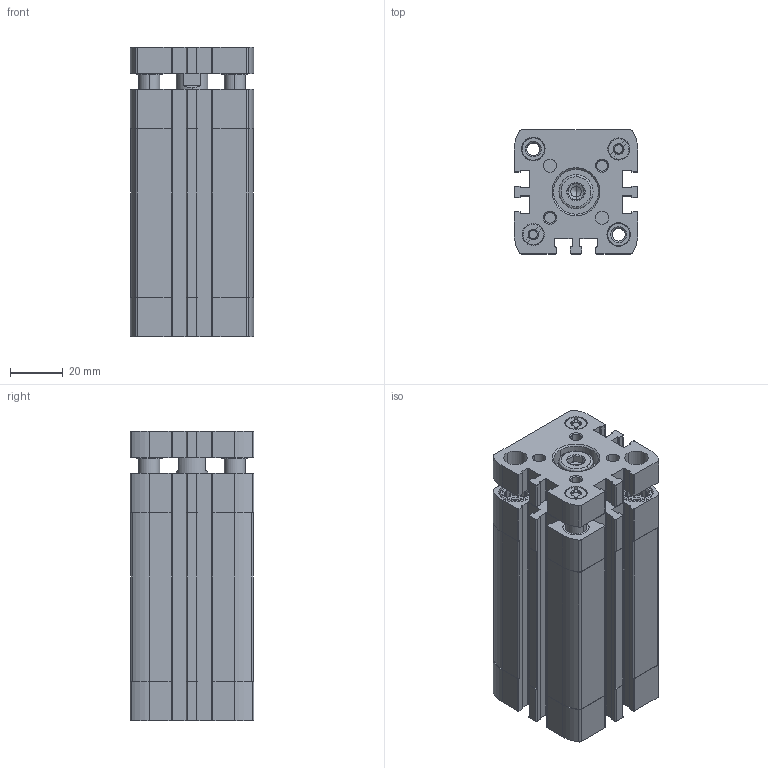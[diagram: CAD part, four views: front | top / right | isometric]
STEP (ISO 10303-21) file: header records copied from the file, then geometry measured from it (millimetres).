
FILE_DESCRIPTION (( 'STEP AP203' ), '1' );
FILE_NAME ('CCNG32-50.STEP', '2018-09-11T13:56:29', ( '' ), ( '' ), 'SwSTEP 2.0', 'SolidWorks 2018', '' );
FILE_SCHEMA (( 'CONFIG_CONTROL_DESIGN' ));
Length unit declared in the file: millimetre
Products named in the file (3): FLANGE; CCNG32-50; CORPO
Assembly tree (2 placements, depth 2):
  CCNG32-50
    CORPO
    FLANGE
Bounding box: 47 x 47 x 110 mm (x, y, z)
Volume: 154712.2 mm3; surface area: 65018.7 mm2
Topology: 2 solids, 4 shells, 715 faces, 1922 edges, 1257 vertices
Faces by surface type: plane 363, cylinder 274, cone 72, bspline 6
Entity records: 23115 total; most frequent: CARTESIAN_POINT 4433, DIRECTION 3960, ORIENTED_EDGE 3840, EDGE_CURVE 1920, AXIS2_PLACEMENT_3D 1460, VERTEX_POINT 1257, LINE 1040, VECTOR 1040
